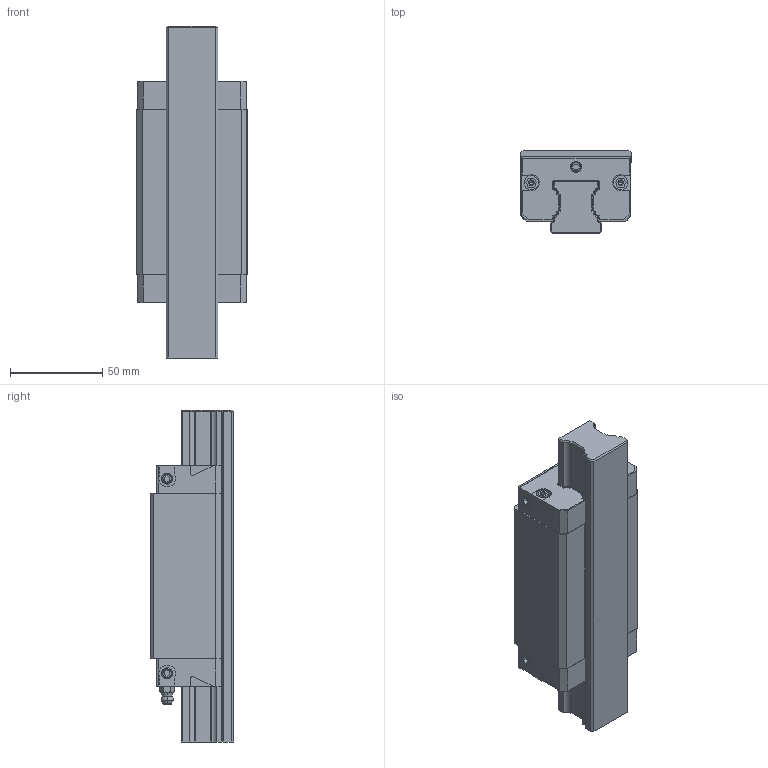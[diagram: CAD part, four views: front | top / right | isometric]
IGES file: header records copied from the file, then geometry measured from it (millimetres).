
Start section: 3D InterOp IGES (v. 2019 1.0.2), Spatial Corp. Copyright (c) 1999-2017.
Global section: file name: R1624_size30.igs; native system: Spatial Corp.; preprocessor: 3D InterOp GENERIC/IGES 3.0; author: Noname; organization: Noname; date: 20220629.124923; units: millimetre
Bounding box: 60 x 45 x 179.7 mm (x, y, z)
Surface area: 73108.5 mm2 (no closed solid volume)
Topology: 0 solids, 0 shells, 521 faces, 2700 edges, 2670 vertices
Faces by surface type: extrusion 288, revolution 233
